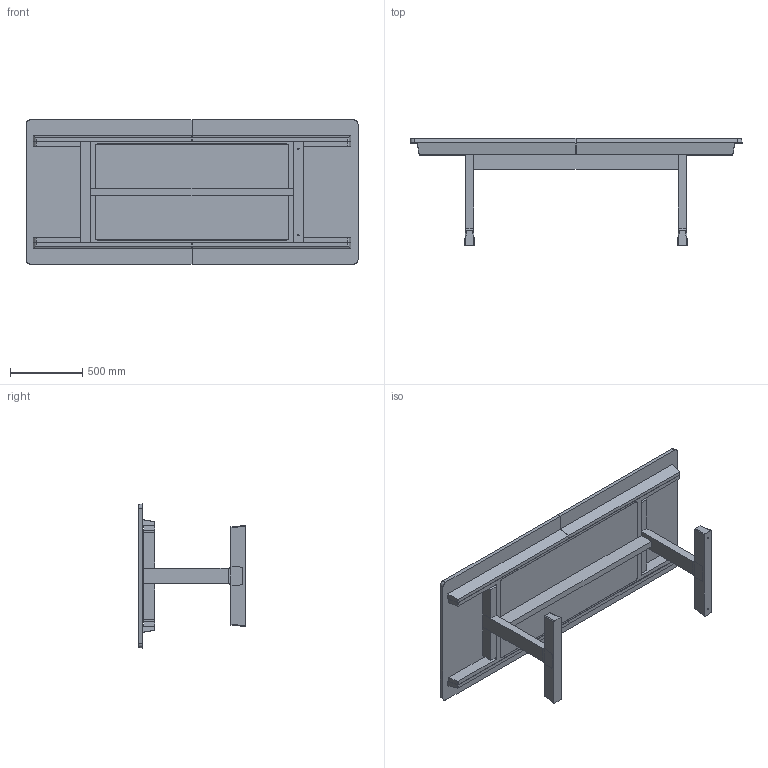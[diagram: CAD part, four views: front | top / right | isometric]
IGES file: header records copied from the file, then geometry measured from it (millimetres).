
Start section: SolidWorks IGES file using analytic representation for surfaces
Global section: file name: C:\Users\Ruben.BDLE\Box\Matthew Hilton\405 Refectory Table\sales related\SW\405 Refectory Extendable Table_vc_prmt.IGS; native system: SolidWorks 2016; preprocessor: SolidWorks 2016; author: Ruben; date: 200312.152231; units: millimetre
Bounding box: 2300 x 740 x 1000 mm (x, y, z)
Surface area: 10590282.5 mm2 (no closed solid volume)
Topology: 0 solids, 0 shells, 235 faces, 2816 edges, 2816 vertices
Faces by surface type: bspline 159, revolution 76
